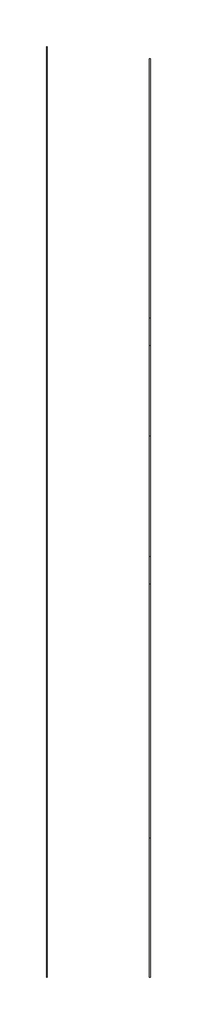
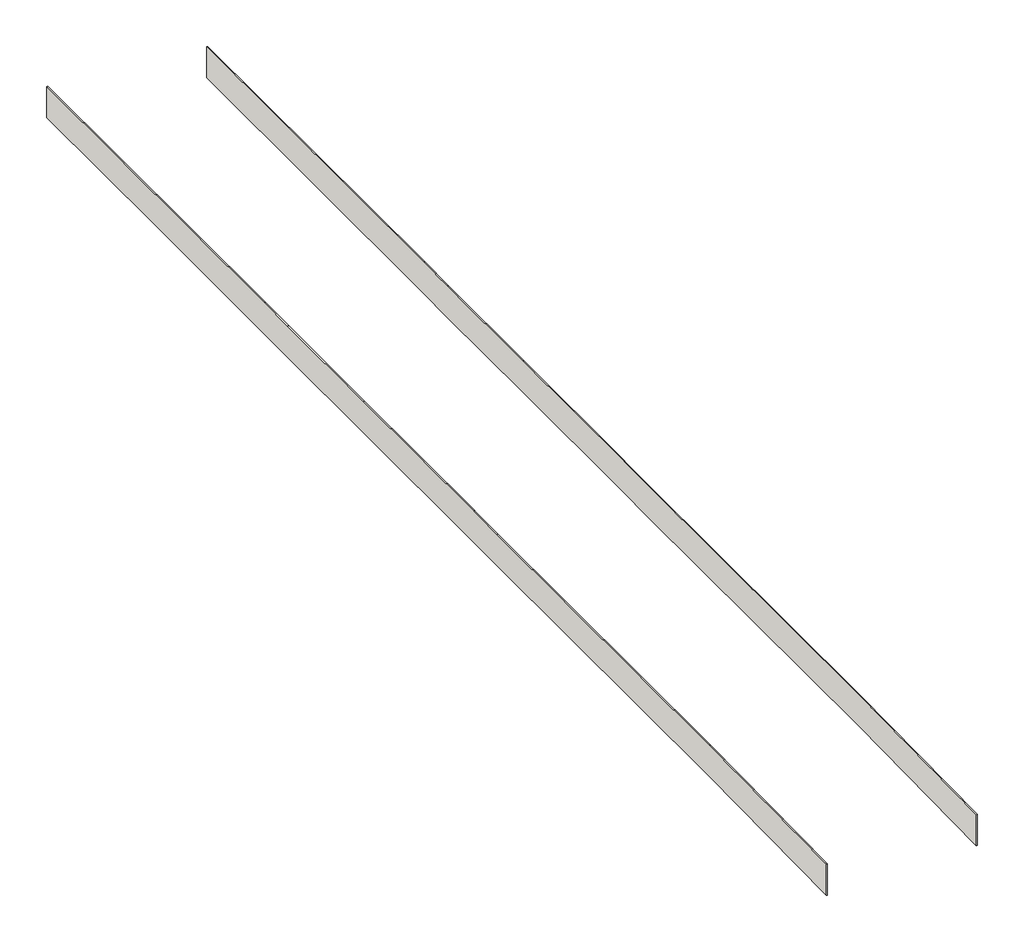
# Not in any storey: 2 walls.
"""IFC4 building model written with IfcOpenShell, lengths in millimetres."""

from ifc_helpers import new_model, si_unit, origin, place, context, project, spatial, faceted_brep, element, save

model = new_model("IFC4")

# Units and contexts
model_context = context("Model", 3, world=origin())
ifc_project = project(units=[si_unit("LENGTHUNIT", "METRE", prefix="MILLI")], contexts=[model_context])

# Site, building
site = spatial("IfcSite", under=ifc_project)
building = spatial("IfcBuilding", under=site)

# Walls
placement = place(None, origin())
element("IfcWall", 1, ObjectType="Bauzaun", at=placement, inside=building, context=model_context, shape_type="Brep", body=[
    faceted_brep([(-112869.2997702, 39182.8338922, 135.693275), (-112869.2997702, 57729.5307718, 400.1893261), (-112869.2997702, 91302.76164, 400.1893261), (-112869.2997702, 94985.7900874, 440.5034882), (-112869.2997702, 112405.81499, 440.5034882), (-112869.2997702, 124405.81499, 440.5034882), (-112869.2997702, 128110.5498998, 484.8233252), (-112869.2997702, 145410.5498998, 484.8233252), (-112869.2997702, 162482.8338922, 484.8233252), (-112869.2997702, 162482.8338922, 3484.8233252), (-112869.2997702, 128092.606004, 3484.8233252), (-112869.2997702, 124387.8710942, 3440.5034882), (-112869.2997702, 112405.81499, 3440.5034882), (-112869.2997702, 94969.371688, 3440.5034882), (-112869.2997702, 94969.371688, 3400.1893261), (-112869.2997702, 91302.76164, 3400.1893261), (-112869.2997702, 57708.1402294, 3400.1893261), (-112869.2997702, 39182.8338922, 3135.9983274), (-112869.2997702, 39182.8338922, 140.0), (-112969.2997702, 39182.8338922, 135.693275), (-112969.2997702, 39182.8338922, 3135.9983274), (-112969.2997702, 57708.1402294, 3400.1893261), (-112969.2997702, 91302.76164, 3400.1893261), (-112969.2997702, 94969.371688, 3400.1893261), (-112969.2997702, 94969.371688, 3440.5034882), (-112969.2997702, 112405.81499, 3440.5034882), (-112969.2997702, 124387.8710942, 3440.5034882), (-112969.2997702, 128092.606004, 3484.8233252), (-112969.2997702, 162482.8338922, 3484.8233252), (-112969.2997702, 162482.8338922, 3480.0), (-112969.2997702, 162482.8338922, 484.8233252), (-112969.2997702, 145410.5498998, 484.8233252), (-112969.2997702, 128110.5498998, 484.8233252), (-112969.2997702, 124405.81499, 440.5034882), (-112969.2997702, 112405.81499, 440.5034882), (-112969.2997702, 94985.7900874, 440.5034882), (-112969.2997702, 91302.76164, 400.1893261), (-112969.2997702, 57729.5307718, 400.1893261)], [[[0, 1, 2, 3, 4, 5, 6, 7, 8, 9, 10, 11, 12, 13, 14, 15, 16, 17, 18]], [[19, 20, 21, 22, 23, 24, 25, 26, 27, 28, 29, 30, 31, 32, 33, 34, 35, 36, 37]], [[1, 0, 19, 37]], [[2, 1, 37, 36]], [[3, 2, 36, 35]], [[4, 3, 35, 34]], [[5, 4, 34, 33]], [[6, 5, 33, 32]], [[7, 6, 32, 31]], [[8, 7, 31, 30]], [[10, 9, 28, 27]], [[11, 10, 27, 26]], [[12, 11, 26, 25]], [[13, 12, 25, 24]], [[14, 13, 24, 23]], [[15, 14, 23, 22]], [[16, 15, 22, 21]], [[17, 16, 21, 20]], [[9, 8, 30, 29, 28]], [[0, 18, 17, 20, 19]]]),
])
element("IfcWall", 2, ObjectType="Bauzaun", at=placement, inside=building, context=model_context, shape_type="Brep", body=[
    faceted_brep([(-99169.2997702, 39182.8338922, 135.693275), (-99169.2997702, 57729.5307718, 400.1893261), (-99169.2997702, 91302.76164, 400.1893261), (-99169.2997702, 94985.7900874, 440.5034882), (-99169.2997702, 110905.81499, 440.5034882), (-99169.2997702, 122905.81499, 440.5034882), (-99169.2997702, 126610.5498998, 484.8233252), (-99169.2997702, 143910.5498998, 484.8233252), (-99169.2997702, 160882.8338922, 484.8233252), (-99169.2997702, 160882.8338922, 3484.8233252), (-99169.2997702, 126592.606004, 3484.8233252), (-99169.2997702, 122887.8710942, 3440.5034882), (-99169.2997702, 110905.81499, 3440.5034882), (-99169.2997702, 94969.371688, 3440.5034882), (-99169.2997702, 94969.371688, 3400.1893261), (-99169.2997702, 91302.76164, 3400.1893261), (-99169.2997702, 57708.1402294, 3400.1893261), (-99169.2997702, 39182.8338922, 3135.9983274), (-99269.2997702, 39182.8338922, 135.693275), (-99269.2997702, 39182.8338922, 140.0), (-99269.2997702, 39182.8338922, 3135.9983274), (-99269.2997702, 57708.1402294, 3400.1893261), (-99269.2997702, 91302.76164, 3400.1893261), (-99269.2997702, 94969.371688, 3400.1893261), (-99269.2997702, 94969.371688, 3440.5034882), (-99269.2997702, 110905.81499, 3440.5034882), (-99269.2997702, 122887.8710942, 3440.5034882), (-99269.2997702, 126592.606004, 3484.8233252), (-99269.2997702, 160882.8338922, 3484.8233252), (-99269.2997702, 160882.8338922, 3480.0), (-99269.2997702, 160882.8338922, 484.8233252), (-99269.2997702, 143910.5498998, 484.8233252), (-99269.2997702, 126610.5498998, 484.8233252), (-99269.2997702, 122905.81499, 440.5034882), (-99269.2997702, 110905.81499, 440.5034882), (-99269.2997702, 94985.7900874, 440.5034882), (-99269.2997702, 91302.76164, 400.1893261), (-99269.2997702, 57729.5307718, 400.1893261)], [[[0, 1, 2, 3, 4, 5, 6, 7, 8, 9, 10, 11, 12, 13, 14, 15, 16, 17]], [[18, 19, 20, 21, 22, 23, 24, 25, 26, 27, 28, 29, 30, 31, 32, 33, 34, 35, 36, 37]], [[1, 0, 18, 37]], [[2, 1, 37, 36]], [[3, 2, 36, 35]], [[4, 3, 35, 34]], [[5, 4, 34, 33]], [[6, 5, 33, 32]], [[7, 6, 32, 31]], [[8, 7, 31, 30]], [[10, 9, 28, 27]], [[11, 10, 27, 26]], [[12, 11, 26, 25]], [[13, 12, 25, 24]], [[14, 13, 24, 23]], [[15, 14, 23, 22]], [[16, 15, 22, 21]], [[17, 16, 21, 20]], [[9, 8, 30, 29, 28]], [[0, 17, 20, 19, 18]]]),
])

save(model, "model.ifc")
